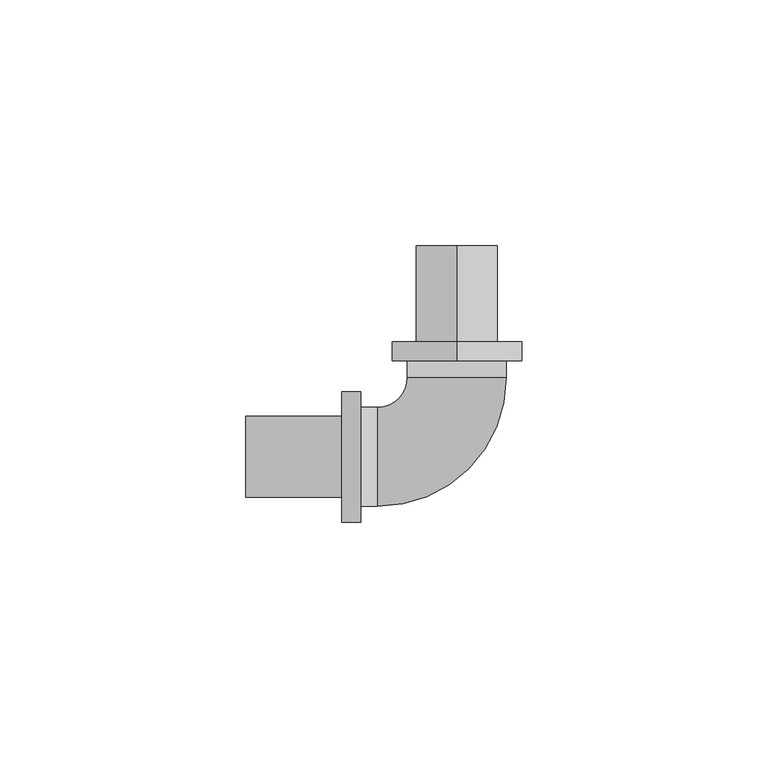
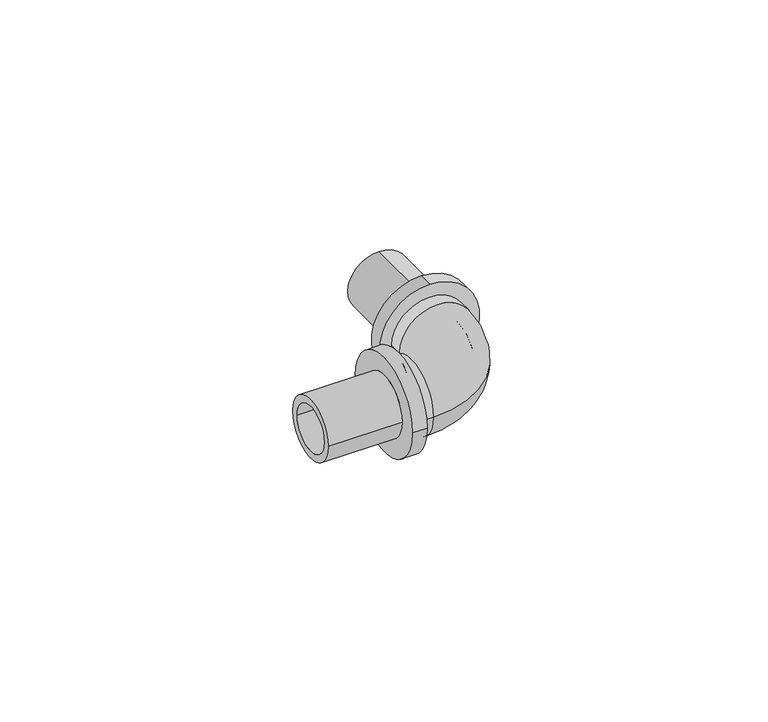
"""IFC4 building model written with IfcOpenShell, lengths in millimetres: pipe fitting geometry, RAUTITAN_Corner_RX+ : RTI RX+ C DE."""

from ifc_helpers import new_model, si_unit, point, frame, origin, place, context, project, spatial, polyline, circle_curve, ellipse_curve, trimmed, source, transform, mapped, element, save
from ifc_brep_helpers import plane_surface, cylinder_surface, revolved_surface, advanced_brep


def pipe_fitting_8f4a0f1d(model_context):
    return source(origin(), model_context, "Body", "AdvancedBrep", [
        advanced_brep(
        [(-19.6, 10.05, 0.0), (-19.6, -10.05, 0.0), (-19.6, 6.25, 0.0), (-19.6, -6.25, 0.0), (-16.15, -6.25, 0.0), (-16.15, 6.25, 0.0), (-16.15, -10.05, 0.0), (-16.15, 0.0, 10.05), (-16.15, 10.05, 0.0), (-16.15, 0.0, -10.05), (10.05, 19.6, 0.0), (-10.05, 19.6, 0.0), (6.25, 19.6, 0.0), (-6.25, 19.6, 0.0), (-6.25, 16.15, 0.0), (6.25, 16.15, 0.0), (-10.05, 16.15, 0.0), (0.0, 16.15, 10.05), (10.05, 16.15, 0.0), (0.0, 16.15, -10.05)],
        [
            (0, 1, circle_curve(frame((-19.6, 0.0, 0.0), z_axis=(-1.0, 0.0, 0.0), x_axis=(0.0, -1.0, 0.0)), 10.05)),
            (1, 0, circle_curve(frame((-19.6, 0.0, 0.0), z_axis=(-1.0, 0.0, 0.0), x_axis=(0.0, -1.0, 0.0)), 10.05)),
            (2, 3, circle_curve(frame((-19.6, 0.0, 0.0), z_axis=(1.0, 0.0, 0.0), x_axis=(0.0, -1.0, 0.0)), 6.25)),
            (3, 2, circle_curve(frame((-19.6, 0.0, 0.0), z_axis=(1.0, 0.0, 0.0), x_axis=(0.0, -1.0, 0.0)), 6.25)),
            (3, 4),
            (4, 5, circle_curve(frame((-16.15, 0.0, 0.0), z_axis=(1.0, 0.0, 0.0), x_axis=(0.0, -1.0, 0.0)), 6.25)),
            (5, 2),
            (5, 4, circle_curve(frame((-16.15, 0.0, 0.0), z_axis=(1.0, 0.0, 0.0), x_axis=(0.0, -1.0, 0.0)), 6.25)),
            (1, 6),
            (6, 7, circle_curve(frame((-16.15, 0.0, 0.0), z_axis=(-1.0, 0.0, 0.0), x_axis=(0.0, -1.0, 0.0)), 10.05)),
            (7, 8, circle_curve(frame((-16.15, 0.0, 0.0), z_axis=(-1.0, 0.0, 0.0), x_axis=(0.0, -1.0, 0.0)), 10.05)),
            (8, 0),
            (8, 9, circle_curve(frame((-16.15, 0.0, 0.0), z_axis=(-1.0, 0.0, 0.0), x_axis=(0.0, -1.0, 0.0)), 10.05)),
            (9, 6, circle_curve(frame((-16.15, 0.0, 0.0), z_axis=(-1.0, 0.0, 0.0), x_axis=(0.0, -1.0, 0.0)), 10.05)),
            (10, 11, circle_curve(frame((0.0, 19.6, 0.0), z_axis=(0.0, 1.0, 0.0), x_axis=(-1.0, 0.0, 0.0)), 10.05)),
            (11, 10, circle_curve(frame((0.0, 19.6, 0.0), z_axis=(0.0, 1.0, 0.0), x_axis=(-1.0, 0.0, 0.0)), 10.05)),
            (12, 13, circle_curve(frame((0.0, 19.6, 0.0), z_axis=(0.0, -1.0, 0.0), x_axis=(-1.0, 0.0, 0.0)), 6.25)),
            (13, 12, circle_curve(frame((0.0, 19.6, 0.0), z_axis=(0.0, -1.0, 0.0), x_axis=(-1.0, 0.0, 0.0)), 6.25)),
            (13, 14),
            (14, 15, circle_curve(frame((0.0, 16.15, 0.0), z_axis=(0.0, -1.0, 0.0), x_axis=(-1.0, 0.0, 0.0)), 6.25)),
            (15, 12),
            (15, 14, circle_curve(frame((0.0, 16.15, 0.0), z_axis=(0.0, -1.0, 0.0), x_axis=(-1.0, 0.0, 0.0)), 6.25)),
            (11, 16),
            (16, 17, circle_curve(frame((0.0, 16.15, 0.0), z_axis=(0.0, 1.0, 0.0), x_axis=(-1.0, 0.0, 0.0)), 10.05)),
            (17, 18, circle_curve(frame((0.0, 16.15, 0.0), z_axis=(0.0, 1.0, 0.0), x_axis=(-1.0, 0.0, 0.0)), 10.05)),
            (18, 10),
            (18, 19, circle_curve(frame((0.0, 16.15, 0.0), z_axis=(0.0, 1.0, 0.0), x_axis=(-1.0, 0.0, 0.0)), 10.05)),
            (19, 16, circle_curve(frame((0.0, 16.15, 0.0), z_axis=(0.0, 1.0, 0.0), x_axis=(-1.0, 0.0, 0.0)), 10.05)),
            (14, 5, circle_curve(frame((-16.15, 16.15, 0.0), z_axis=(0.0, 0.0, -1.0), x_axis=(0.0, -1.0, 0.0)), 9.9)),
            (4, 15, circle_curve(frame((-16.15, 16.15, 0.0), z_axis=(0.0, 0.0, 1.0), x_axis=(0.0, -1.0, 0.0)), 22.4)),
            (16, 8, circle_curve(frame((-16.15, 16.15, 0.0), z_axis=(0.0, 0.0, -1.0), x_axis=(0.0, -1.0, 0.0)), 6.1)),
            (6, 18, circle_curve(frame((-16.15, 16.15, 0.0), z_axis=(0.0, 0.0, 1.0), x_axis=(0.0, -1.0, 0.0)), 26.2)),
        ],
        [
            plane_surface(frame((-19.6, 0.0, 0.0), z_axis=(-1.0, 0.0, 0.0), x_axis=(0.0, 0.0, 1.0))),
            revolved_surface(polyline([(-19.6, -6.25, 0.0), (-16.15, -6.25, 0.0)]), (-16.15, 0.0, 0.0), (-1.0, 0.0, 0.0)),
            cylinder_surface(frame((-16.15, 0.0, 0.0), z_axis=(1.0, 0.0, 0.0), x_axis=(0.0, -1.0, 0.0)), 10.05),
            plane_surface(frame((0.0, 19.6, 0.0), z_axis=(0.0, 1.0, 0.0), x_axis=(0.0, 0.0, 1.0))),
            revolved_surface(polyline([(-6.25, 19.6, 0.0), (-6.25, 16.15, 0.0)]), (0.0, 16.15, 0.0), (0.0, 1.0, 0.0)),
            cylinder_surface(frame((0.0, 16.15, 0.0), z_axis=(0.0, -1.0, 0.0), x_axis=(-1.0, 0.0, 0.0)), 10.05),
            revolved_surface(trimmed(ellipse_curve(frame((-16.15, 0.0, 0.0), z_axis=(1.0, 0.0, 0.0), x_axis=(0.0, 1.0, 0.0)), 6.25, 6.25), [point((-16.15, -6.25, 0.0))], [point((-16.15, 6.25, 0.0))], True, "CARTESIAN"), (-16.15, 16.15, 0.0), (0.0, 0.0, 1.0)),
            revolved_surface(trimmed(ellipse_curve(frame((-16.15, 0.0, 0.0), z_axis=(1.0, 0.0, 0.0), x_axis=(0.0, 1.0, 0.0)), 6.25, 6.25), [point((-16.15, 6.25, 0.0))], [point((-16.15, -6.25, 0.0))], True, "CARTESIAN"), (-16.15, 16.15, 0.0), (0.0, 0.0, 1.0)),
            revolved_surface(trimmed(ellipse_curve(frame((-16.15, 0.0, 0.0), z_axis=(-1.0, 0.0, 0.0), x_axis=(0.0, 1.0, 0.0)), 10.05, 10.05), [point((-16.15, -10.05, 0.0))], [point((-16.15, 10.05, 0.0))], True, "CARTESIAN"), (-16.15, 16.15, 0.0), (0.0, 0.0, 1.0)),
            revolved_surface(trimmed(ellipse_curve(frame((-16.15, 0.0, 0.0), z_axis=(-1.0, 0.0, 0.0), x_axis=(0.0, 1.0, 0.0)), 10.05, 10.05), [point((-16.15, 10.05, 0.0))], [point((-16.15, -10.05, 0.0))], True, "CARTESIAN"), (-16.15, 16.15, 0.0), (0.0, 0.0, 1.0)),
        ],
        [
            (0, [[1, 2], [3, 4]]),
            (1, [[-4, 5, 6, 7]]),
            (1, [[-3, -7, 8, -5]]),
            (2, [[-2, 9, 10, 11, 12]]),
            (2, [[-1, -12, 13, 14, -9]]),
            (3, [[15, 16], [17, 18]]),
            (4, [[-18, 19, 20, 21]]),
            (4, [[-17, -21, 22, -19]]),
            (5, [[-16, 23, 24, 25, 26]]),
            (5, [[-15, -26, 27, 28, -23]]),
            (6, [[29, -6, 30, -20]]),
            (7, [[-29, -22, -30, -8]]),
            (8, [[31, -11, -10, 32, -25, -24]]),
            (9, [[-31, -28, -27, -32, -14, -13]]),
        ],
    ),
        advanced_brep(
        [(-23.4, -13.25, 0.0), (-23.4, 13.25, 0.0), (-19.6, 13.25, 0.0), (-19.6, -13.25, 0.0), (-42.9, -8.25, 0.0), (-42.9, 8.25, 0.0), (-23.4, 8.25, 0.0), (-23.4, -8.25, 0.0), (-19.6, -6.25, 0.0), (-19.6, 6.25, 0.0), (-42.9, 6.25, 0.0), (-42.9, -6.25, 0.0)],
        [
            (0, 1, circle_curve(frame((-23.4, 0.0, 0.0), z_axis=(1.0, 0.0, 0.0), x_axis=(0.0, 1.0, 0.0)), 13.25)),
            (1, 2),
            (2, 3, circle_curve(frame((-19.6, 0.0, 0.0), z_axis=(-1.0, 0.0, 0.0), x_axis=(0.0, 1.0, 0.0)), 13.25)),
            (3, 0),
            (4, 5, circle_curve(frame((-42.9, 0.0, 0.0), z_axis=(1.0, 0.0, 0.0), x_axis=(0.0, 1.0, 0.0)), 8.25)),
            (5, 6),
            (6, 7, circle_curve(frame((-23.4, 0.0, 0.0), z_axis=(-1.0, 0.0, 0.0), x_axis=(0.0, 1.0, 0.0)), 8.25)),
            (7, 4),
            (8, 9, circle_curve(frame((-19.6, 0.0, 0.0), z_axis=(1.0, 0.0, 0.0), x_axis=(0.0, 1.0, 0.0)), 6.25)),
            (9, 10),
            (10, 11, circle_curve(frame((-42.9, 0.0, 0.0), z_axis=(-1.0, 0.0, 0.0), x_axis=(0.0, 1.0, 0.0)), 6.25)),
            (11, 8),
            (1, 0, circle_curve(frame((-23.4, 0.0, 0.0), z_axis=(1.0, 0.0, 0.0), x_axis=(0.0, -1.0, 0.0)), 13.25)),
            (3, 2, circle_curve(frame((-19.6, 0.0, 0.0), z_axis=(-1.0, 0.0, 0.0), x_axis=(0.0, -1.0, 0.0)), 13.25)),
            (6, 7, circle_curve(frame((-23.4, 0.0, 0.0), z_axis=(1.0, 0.0, 0.0), x_axis=(0.0, -1.0, 0.0)), 8.25)),
            (5, 4, circle_curve(frame((-42.9, 0.0, 0.0), z_axis=(1.0, 0.0, 0.0), x_axis=(0.0, -1.0, 0.0)), 8.25)),
            (10, 11, circle_curve(frame((-42.9, 0.0, 0.0), z_axis=(1.0, 0.0, 0.0), x_axis=(0.0, -1.0, 0.0)), 6.25)),
            (9, 8, circle_curve(frame((-19.6, 0.0, 0.0), z_axis=(1.0, 0.0, 0.0), x_axis=(0.0, -1.0, 0.0)), 6.25)),
        ],
        [
            cylinder_surface(frame((-19.6, 0.0, 0.0), z_axis=(-1.0, 0.0, 0.0), x_axis=(0.0, 1.0, 0.0)), 13.25),
            cylinder_surface(frame((-19.6, 0.0, 0.0), z_axis=(-1.0, 0.0, 0.0), x_axis=(0.0, 1.0, 0.0)), 8.25),
            revolved_surface(polyline([(-42.9, 6.25, 0.0), (-19.6, 6.25, 0.0)]), (-19.6, 0.0, 0.0), (-1.0, 0.0, 0.0)),
            cylinder_surface(frame((-19.6, 0.0, 0.0), z_axis=(-1.0, 0.0, 0.0), x_axis=(0.0, -1.0, 0.0)), 13.25),
            plane_surface(frame((-23.4, 0.0, 0.0), z_axis=(-1.0, 0.0, 0.0), x_axis=(0.0, -1.0, 0.0))),
            cylinder_surface(frame((-19.6, 0.0, 0.0), z_axis=(-1.0, 0.0, 0.0), x_axis=(0.0, -1.0, 0.0)), 8.25),
            plane_surface(frame((-42.9, 0.0, 0.0), z_axis=(-1.0, 0.0, 0.0), x_axis=(0.0, -1.0, 0.0))),
            revolved_surface(polyline([(-42.9, -6.25, 0.0), (-19.6, -6.25, 0.0)]), (-19.6, 0.0, 0.0), (-1.0, 0.0, 0.0)),
            plane_surface(frame((-19.6, 0.0, 0.0), z_axis=(1.0, 0.0, 0.0), x_axis=(0.0, -1.0, 0.0))),
        ],
        [
            (0, [[1, 2, 3, 4]]),
            (1, [[5, 6, 7, 8]]),
            (2, [[9, 10, 11, 12]]),
            (3, [[13, -4, 14, -2]]),
            (4, [[-13, -1], [15, -7]]),
            (5, [[16, -8, -15, -6]]),
            (6, [[-16, -5], [17, -11]]),
            (7, [[18, -12, -17, -10]]),
            (8, [[-14, -3], [-18, -9]]),
        ],
    ),
        advanced_brep(
        [(0.0, 23.4, 13.6749044), (0.0, 23.4, -12.8250956), (0.0, 19.6, -12.8250956), (0.0, 19.6, 13.6749044), (0.0, 42.9, 8.6749044), (0.0, 42.9, -7.8250956), (0.0, 23.4, -7.8250956), (0.0, 23.4, 8.6749044), (0.0, 19.6, 6.6749044), (0.0, 19.6, -5.8250956), (0.0, 42.9, -5.8250956), (0.0, 42.9, 6.6749044)],
        [
            (0, 1, circle_curve(frame((0.0, 23.4, 0.4249044), z_axis=(0.0, -1.0, 0.0), x_axis=(0.0, 0.0, -1.0)), 13.25)),
            (1, 2),
            (2, 3, circle_curve(frame((0.0, 19.6, 0.4249044), z_axis=(0.0, 1.0, 0.0), x_axis=(0.0, 0.0, -1.0)), 13.25)),
            (3, 0),
            (4, 5, circle_curve(frame((0.0, 42.9, 0.4249044), z_axis=(0.0, -1.0, 0.0), x_axis=(0.0, 0.0, -1.0)), 8.25)),
            (5, 6),
            (6, 7, circle_curve(frame((0.0, 23.4, 0.4249044), z_axis=(0.0, 1.0, 0.0), x_axis=(0.0, 0.0, -1.0)), 8.25)),
            (7, 4),
            (8, 9, circle_curve(frame((0.0, 19.6, 0.4249044), z_axis=(0.0, -1.0, 0.0), x_axis=(0.0, 0.0, -1.0)), 6.25)),
            (9, 10),
            (10, 11, circle_curve(frame((0.0, 42.9, 0.4249044), z_axis=(0.0, 1.0, 0.0), x_axis=(0.0, 0.0, -1.0)), 6.25)),
            (11, 8),
            (1, 0, circle_curve(frame((0.0, 23.4, 0.4249044), z_axis=(0.0, -1.0, 0.0), x_axis=(0.0, 0.0, 1.0)), 13.25)),
            (3, 2, circle_curve(frame((0.0, 19.6, 0.4249044), z_axis=(0.0, 1.0, 0.0), x_axis=(0.0, 0.0, 1.0)), 13.25)),
            (6, 7, circle_curve(frame((0.0, 23.4, 0.4249044), z_axis=(0.0, -1.0, 0.0), x_axis=(0.0, 0.0, 1.0)), 8.25)),
            (5, 4, circle_curve(frame((0.0, 42.9, 0.4249044), z_axis=(0.0, -1.0, 0.0), x_axis=(0.0, 0.0, 1.0)), 8.25)),
            (10, 11, circle_curve(frame((0.0, 42.9, 0.4249044), z_axis=(0.0, -1.0, 0.0), x_axis=(0.0, 0.0, 1.0)), 6.25)),
            (9, 8, circle_curve(frame((0.0, 19.6, 0.4249044), z_axis=(0.0, -1.0, 0.0), x_axis=(0.0, 0.0, 1.0)), 6.25)),
        ],
        [
            cylinder_surface(frame((0.0, 19.6, 0.4249044), z_axis=(0.0, 1.0, 0.0), x_axis=(0.0, 0.0, -1.0)), 13.25),
            cylinder_surface(frame((0.0, 19.6, 0.4249044), z_axis=(0.0, 1.0, 0.0), x_axis=(0.0, 0.0, -1.0)), 8.25),
            revolved_surface(polyline([(0.0, 42.9, -5.8250956), (0.0, 19.6, -5.8250956)]), (0.0, 19.6, 0.4249044), (0.0, 1.0, 0.0)),
            cylinder_surface(frame((0.0, 19.6, 0.4249044), z_axis=(0.0, 1.0, 0.0), x_axis=(0.0, 0.0, 1.0)), 13.25),
            plane_surface(frame((0.0, 23.4, 0.4249044), z_axis=(0.0, 1.0, 0.0), x_axis=(0.0, 0.0, 1.0))),
            cylinder_surface(frame((0.0, 19.6, 0.4249044), z_axis=(0.0, 1.0, 0.0), x_axis=(0.0, 0.0, 1.0)), 8.25),
            plane_surface(frame((0.0, 42.9, 0.4249044), z_axis=(0.0, 1.0, 0.0), x_axis=(0.0, 0.0, 1.0))),
            revolved_surface(polyline([(0.0, 42.9, 6.6749044), (0.0, 19.6, 6.6749044)]), (0.0, 19.6, 0.4249044), (0.0, 1.0, 0.0)),
            plane_surface(frame((0.0, 19.6, 0.4249044), z_axis=(0.0, -1.0, 0.0), x_axis=(0.0, 0.0, 1.0))),
        ],
        [
            (0, [[1, 2, 3, 4]]),
            (1, [[5, 6, 7, 8]]),
            (2, [[9, 10, 11, 12]]),
            (3, [[13, -4, 14, -2]]),
            (4, [[-13, -1], [15, -7]]),
            (5, [[16, -8, -15, -6]]),
            (6, [[-16, -5], [17, -11]]),
            (7, [[18, -12, -17, -10]]),
            (8, [[-14, -3], [-18, -9]]),
        ],
    ),
    ])


if __name__ == "__main__":
    model = new_model("IFC4")
    model_context = context("Model", 3, world=origin())
    ifc_project = project(units=[si_unit("LENGTHUNIT", "METRE", prefix="MILLI")], contexts=[model_context])
    site = spatial("IfcSite", under=ifc_project)
    building = spatial("IfcBuilding", under=site)
    placement = place(None, origin())
    pipe_fitting_shape = pipe_fitting_8f4a0f1d(model_context)
    element("IfcPipeFitting", 1, ObjectType="RAUTITAN_Corner_RX+ : RTI RX+ C DE", at=placement, inside=building, context=model_context, shape_type="MappedRepresentation", body=[
        mapped(pipe_fitting_shape, transform((0.0, 0.0, 0.0), x_axis=(1.0, 0.0, 0.0), y_axis=(0.0, 1.0, 0.0), z_axis=(0.0, 0.0, 1.0))),
    ])
    save(model, "model.ifc")
